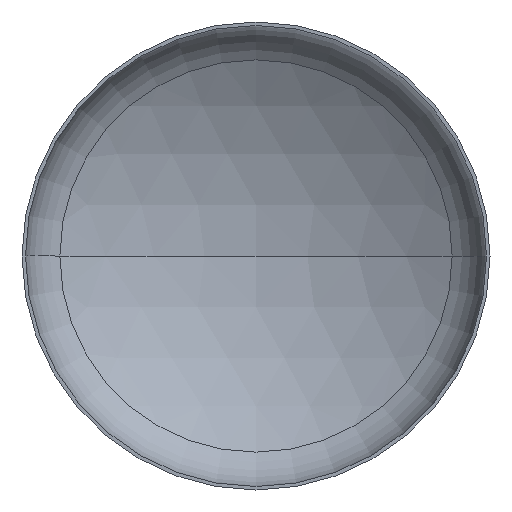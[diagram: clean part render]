
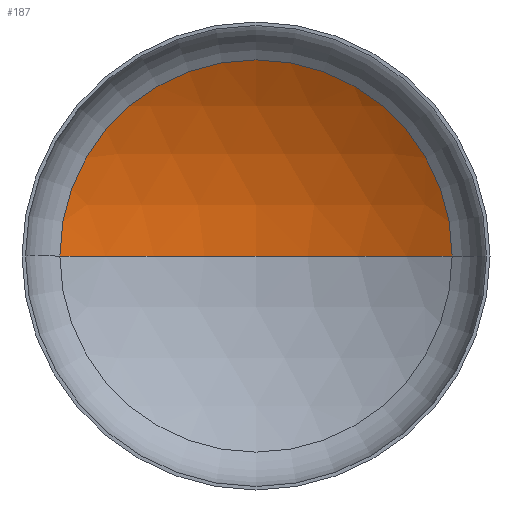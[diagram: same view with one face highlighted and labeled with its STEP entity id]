
A CAD part, front view. The second image highlights one B-rep face of the part: STEP entity #187.
In plain terms, the highlighted spherical face has radius 960 mm.
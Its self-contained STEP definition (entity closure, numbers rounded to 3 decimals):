
#6 = AXIS2_PLACEMENT_3D ( 'NONE', #194, #371, #221 ) ;
#9 = AXIS2_PLACEMENT_3D ( 'NONE', #141, #144, #314 ) ;
#16 = EDGE_LOOP ( 'NONE', ( #25, #86, #45 ) ) ;
#24 = AXIS2_PLACEMENT_3D ( 'NONE', #241, #404, #363 ) ;
#25 = ORIENTED_EDGE ( 'NONE', *, *, #374, .F. ) ;
#28 = VERTEX_POINT ( 'NONE', #269 ) ;
#45 = ORIENTED_EDGE ( 'NONE', *, *, #332, .T. ) ;
#48 = VERTEX_POINT ( 'NONE', #267 ) ;
#57 = AXIS2_PLACEMENT_3D ( 'NONE', #178, #195, #210 ) ;
#86 = ORIENTED_EDGE ( 'NONE', *, *, #378, .T. ) ;
#92 = VERTEX_POINT ( 'NONE', #205 ) ;
#138 = FACE_OUTER_BOUND ( 'NONE', #16, .T. ) ;
#141 = CARTESIAN_POINT ( 'NONE',  ( 0., -630.143, 0. ) ) ;
#144 = DIRECTION ( 'NONE',  ( 0., 0., -1. ) ) ;
#156 = CIRCLE ( 'NONE', #9, 960. ) ;
#178 = CARTESIAN_POINT ( 'NONE',  ( 0., -630.143, 0. ) ) ;
#187 = ADVANCED_FACE ( 'NONE', ( #138 ), #322, .F. ) ;
#194 = CARTESIAN_POINT ( 'NONE',  ( 0., -630.143, 0. ) ) ;
#195 = DIRECTION ( 'NONE',  ( 0., 0., -1. ) ) ;
#205 = CARTESIAN_POINT ( 'NONE',  ( -502.916, 187.583, 0. ) ) ;
#210 = DIRECTION ( 'NONE',  ( -1., 0., 0. ) ) ;
#221 = DIRECTION ( 'NONE',  ( 1., 0., 0. ) ) ;
#241 = CARTESIAN_POINT ( 'NONE',  ( 0., 187.583, 0. ) ) ;
#267 = CARTESIAN_POINT ( 'NONE',  ( 0., 329.857, 0. ) ) ;
#269 = CARTESIAN_POINT ( 'NONE',  ( 502.916, 187.583, 0. ) ) ;
#273 = CIRCLE ( 'NONE', #6, 960. ) ;
#314 = DIRECTION ( 'NONE',  ( -1., 0., 0. ) ) ;
#322 = SPHERICAL_SURFACE ( 'NONE', #57, 960. ) ;
#332 = EDGE_CURVE ( 'NONE', #28, #92, #365, .T. ) ;
#363 = DIRECTION ( 'NONE',  ( 1., 0., 0. ) ) ;
#365 = CIRCLE ( 'NONE', #24, 502.916 ) ;
#371 = DIRECTION ( 'NONE',  ( 0., 0., 1. ) ) ;
#374 = EDGE_CURVE ( 'NONE', #48, #92, #273, .T. ) ;
#378 = EDGE_CURVE ( 'NONE', #48, #28, #156, .T. ) ;
#404 = DIRECTION ( 'NONE',  ( 0., -1., 0. ) ) ;
